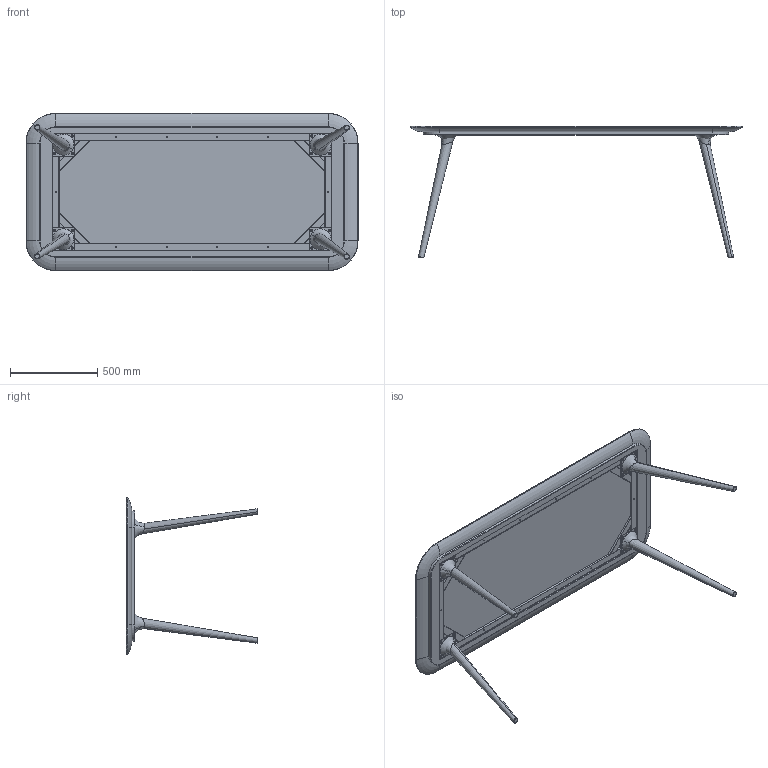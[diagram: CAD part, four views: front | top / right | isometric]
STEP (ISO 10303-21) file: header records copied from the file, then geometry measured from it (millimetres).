
FILE_DESCRIPTION (( 'STEP AP214' ), '1' );
FILE_NAME ('Zio_Dining_Table_190x90.STEP', '2014-08-28T08:26:44', ( '' ), ( '' ), 'SwSTEP 2.0', 'SolidWorks 2014', '' );
FILE_SCHEMA (( 'AUTOMOTIVE_DESIGN' ));
Length unit declared in the file: millimetre
Products named in the file (1): Zio_Dining_Table_190x90
Bounding box: 1900.46 x 749.96 x 900.44 mm (x, y, z)
Volume: 55192132.5 mm3; surface area: 6064485.2 mm2
Topology: 15 solids, 15 shells, 579 faces, 1471 edges, 904 vertices
Faces by surface type: cylinder 273, cone 140, plane 138, bspline 16, torus 12
Entity records: 27172 total; most frequent: CARTESIAN_POINT 6199, DIRECTION 3165, ORIENTED_EDGE 2822, EDGE_CURVE 1411, AXIS2_PLACEMENT_3D 1230, VERTEX_POINT 904, EDGE_LOOP 801, LINE 705
